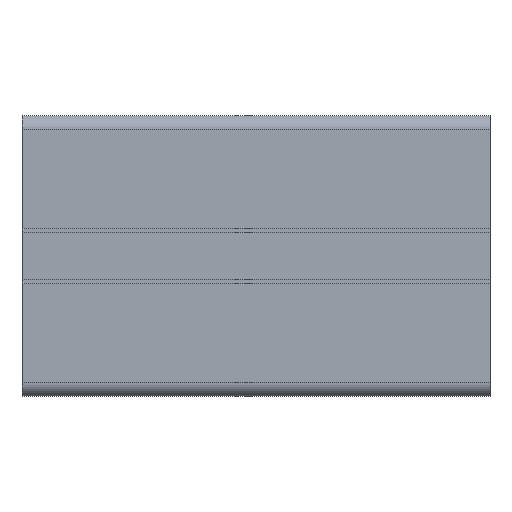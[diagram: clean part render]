
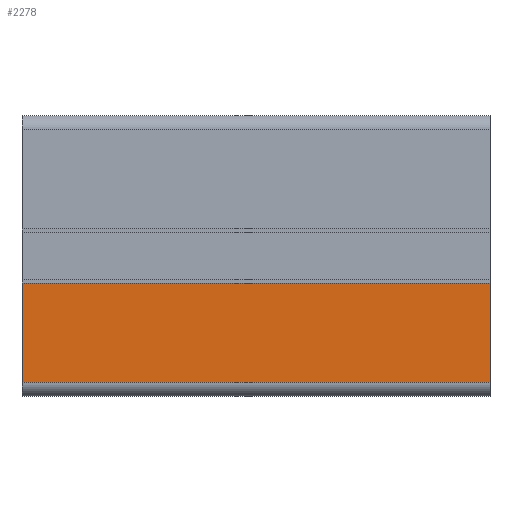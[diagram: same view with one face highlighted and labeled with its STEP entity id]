
A CAD part, left-side view. The second image highlights one B-rep face of the part: STEP entity #2278.
In plain terms, the highlighted planar face has unit normal (-1, 0, 0).
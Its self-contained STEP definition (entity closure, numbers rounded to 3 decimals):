
#154 = DIRECTION ( 'NONE',  ( 0., -1., 0. ) ) ;
#325 = ORIENTED_EDGE ( 'NONE', *, *, #1979, .F. ) ;
#508 = DIRECTION ( 'NONE',  ( 0., 0., -1. ) ) ;
#511 = VECTOR ( 'NONE', #154, 1000. ) ;
#610 = AXIS2_PLACEMENT_3D ( 'NONE', #4316, #2045, #508 ) ;
#794 = DIRECTION ( 'NONE',  ( 0., 0., 1. ) ) ;
#822 = LINE ( 'NONE', #3435, #4452 ) ;
#981 = DIRECTION ( 'NONE',  ( 0., -1., 0. ) ) ;
#1069 = ORIENTED_EDGE ( 'NONE', *, *, #3931, .F. ) ;
#1150 = DIRECTION ( 'NONE',  ( 0., 0., 1. ) ) ;
#1197 = PLANE ( 'NONE',  #610 ) ;
#1272 = VECTOR ( 'NONE', #794, 1000. ) ;
#1338 = VECTOR ( 'NONE', #981, 1000. ) ;
#1836 = CARTESIAN_POINT ( 'NONE',  ( -30., 50., -5.8 ) ) ;
#1870 = CARTESIAN_POINT ( 'NONE',  ( -30., 50., -27. ) ) ;
#1943 = CARTESIAN_POINT ( 'NONE',  ( -30., 50., -27. ) ) ;
#1979 = EDGE_CURVE ( 'NONE', #4774, #2145, #4661, .T. ) ;
#2045 = DIRECTION ( 'NONE',  ( 1., 0., 0. ) ) ;
#2145 = VERTEX_POINT ( 'NONE', #1836 ) ;
#2278 = ADVANCED_FACE ( 'NONE', ( #3100 ), #1197, .F. ) ;
#2638 = EDGE_CURVE ( 'NONE', #4774, #3637, #4345, .T. ) ;
#3100 = FACE_OUTER_BOUND ( 'NONE', #4931, .T. ) ;
#3371 = CARTESIAN_POINT ( 'NONE',  ( -30., -50., -5.8 ) ) ;
#3435 = CARTESIAN_POINT ( 'NONE',  ( -30., -50., -27. ) ) ;
#3628 = ORIENTED_EDGE ( 'NONE', *, *, #4020, .T. ) ;
#3637 = VERTEX_POINT ( 'NONE', #4143 ) ;
#3663 = LINE ( 'NONE', #3965, #1338 ) ;
#3693 = VERTEX_POINT ( 'NONE', #3371 ) ;
#3931 = EDGE_CURVE ( 'NONE', #2145, #3693, #3663, .T. ) ;
#3962 = CARTESIAN_POINT ( 'NONE',  ( -30., 50., -27. ) ) ;
#3965 = CARTESIAN_POINT ( 'NONE',  ( -30., 50., -5.8 ) ) ;
#4020 = EDGE_CURVE ( 'NONE', #3637, #3693, #822, .T. ) ;
#4143 = CARTESIAN_POINT ( 'NONE',  ( -30., -50., -27. ) ) ;
#4316 = CARTESIAN_POINT ( 'NONE',  ( -30., 50., -27. ) ) ;
#4345 = LINE ( 'NONE', #3962, #511 ) ;
#4452 = VECTOR ( 'NONE', #1150, 1000. ) ;
#4661 = LINE ( 'NONE', #1943, #1272 ) ;
#4715 = ORIENTED_EDGE ( 'NONE', *, *, #2638, .T. ) ;
#4774 = VERTEX_POINT ( 'NONE', #1870 ) ;
#4931 = EDGE_LOOP ( 'NONE', ( #3628, #1069, #325, #4715 ) ) ;
